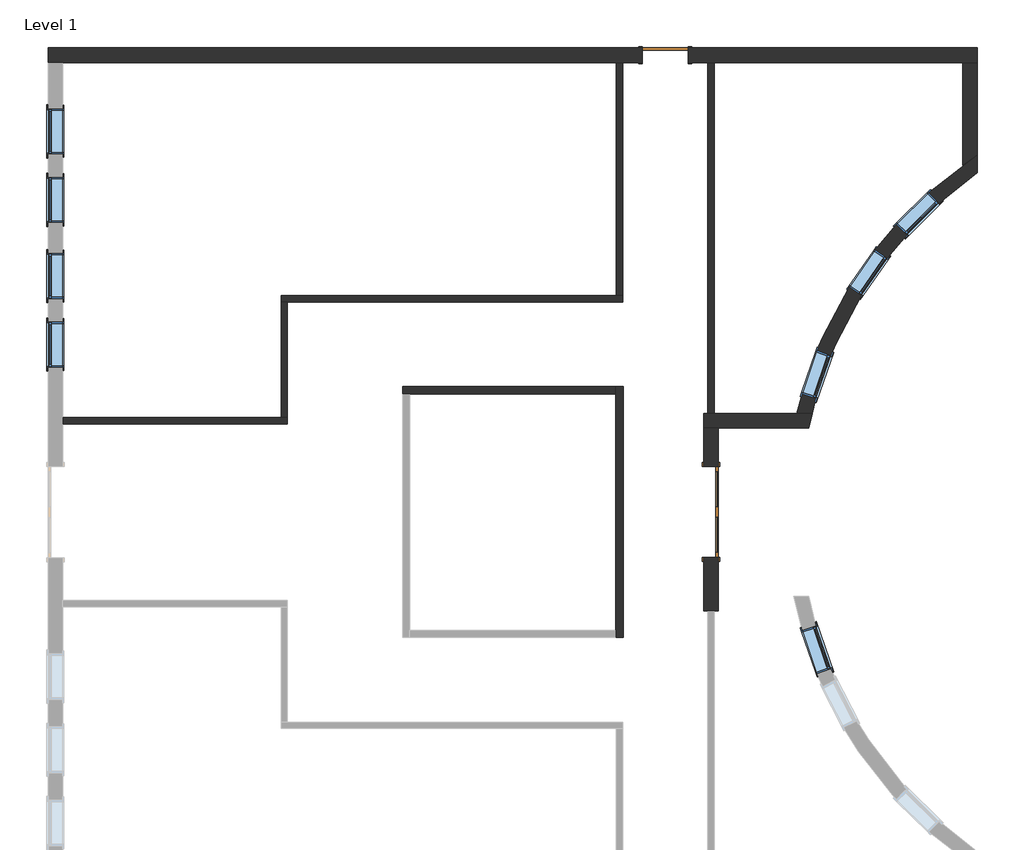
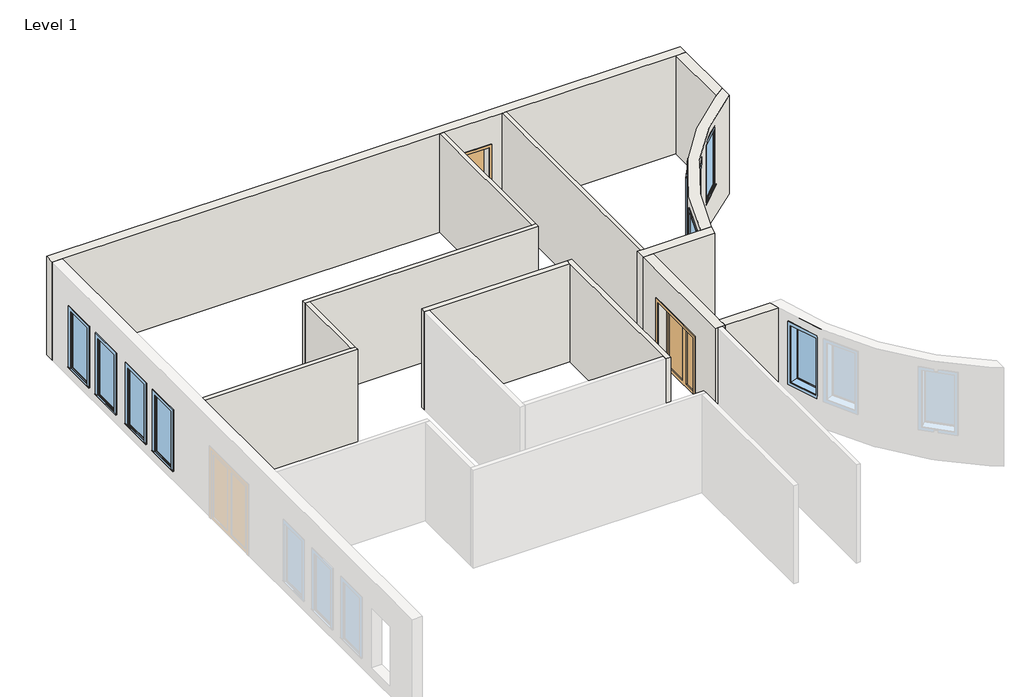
# One storey, part 2 of 2: 13 walls, 8 windows, 2 doors.
"""IFC4 building model written with IfcOpenShell, lengths in millimetres."""

from ifc_helpers import new_model, si_unit, point, frame, frame_2d, origin, origin_with_axes, place, context, project, spatial, polyline, circle_curve, trimmed, segment, composite_curve, outline, extrude, faceted_brep, transform, mapped, element, save
from ifc_brep_helpers import plane_surface, cylinder_surface, revolved_surface, advanced_brep
from components import door_e9d87526, door_617da642, fixed_6768491c, fixed_81e87f0c

model = new_model("IFC4")

# Units and contexts
model_context = context("Model", 3, world=origin())
ifc_project = project(units=[si_unit("LENGTHUNIT", "METRE", prefix="MILLI")], contexts=[model_context])

# Site, building, storey
site = spatial("IfcSite", under=ifc_project)
building = spatial("IfcBuilding", under=site)
storey = spatial("IfcBuildingStorey", under=building, Name="Level 1", Elevation=0.0)

# Doors
placement = place(None, origin())
door_shape = door_e9d87526(model_context)
element("IfcDoor", 1, ObjectType="Double-Glass 1 : 72\" x 84\"", at=placement, inside=storey, context=model_context, shape_type="MappedRepresentation", body=[
    mapped(door_shape, transform((2356.1311274, -430.8085073, 0.0), x_axis=(0.0, -1.0, 0.0), y_axis=(1.0, 0.0, 0.0), z_axis=(0.0, 0.0, 1.0))),
])
door_2_shape = door_617da642(model_context)
element("IfcDoor", 2, ObjectType="Sgl Flush : 36\" x 84\"", at=placement, inside=storey, context=model_context, shape_type="MappedRepresentation", body=[
    mapped(door_2_shape, transform((1444.1123774, 8708.4289927, 0.0), x_axis=(-1.0, 0.0, 0.0), y_axis=(0.0, -1.0, 0.0), z_axis=(0.0, 0.0, 1.0))),
])

# Walls
element("IfcWall", 3, ObjectType="Generic - 12\" Masonry", at=placement, inside=storey, context=model_context, shape_type="Brep", body=[
    faceted_brep([(-10895.5251226, 8560.7914927, 0.0), (-10600.2501226, 8560.7914927, 0.0), (467.7998774, 8560.7914927, 0.0), (591.6248774, 8560.7914927, 0.0), (986.9123774, 8560.7914927, 0.0), (986.9123774, 8560.7914927, 2133.6), (1901.3123774, 8560.7914927, 2133.6), (1901.3123774, 8560.7914927, 0.0), (2296.5998774, 8560.7914927, 0.0), (2420.4248774, 8560.7914927, 0.0), (7392.4748774, 8560.7914927, 0.0), (7687.7498774, 8560.7914927, 0.0), (7687.7498774, 8560.7914927, 3048.0), (7392.4748774, 8560.7914927, 3048.0), (2420.4248774, 8560.7914927, 3048.0), (2296.5998774, 8560.7914927, 3048.0), (591.6248774, 8560.7914927, 3048.0), (467.7998774, 8560.7914927, 3048.0), (-10600.2501226, 8560.7914927, 3048.0), (-10895.5251226, 8560.7914927, 3048.0), (986.9123774, 8856.0664927, 2133.6), (986.9123774, 8856.0664927, 0.0), (-10895.5251226, 8856.0664927, 0.0), (-10895.5251226, 8856.0664927, 3048.0), (7687.7498774, 8856.0664927, 3048.0), (7687.7498774, 8856.0664927, 0.0), (1901.3123774, 8856.0664927, 0.0), (1901.3123774, 8856.0664927, 2133.6)], [[[0, 1, 2, 3, 4, 5, 6, 7, 8, 9, 10, 11, 12, 13, 14, 15, 16, 17, 18, 19]], [[20, 21, 22, 23, 24, 25, 26, 27]], [[22, 21, 4, 3, 2, 1, 0]], [[26, 25, 11, 10, 9, 8, 7]], [[19, 18, 17, 16, 15, 14, 13, 12, 24, 23]], [[0, 19, 23, 22]], [[12, 11, 25, 24]], [[5, 4, 21, 20]], [[6, 5, 20, 27]], [[7, 6, 27, 26]]]),
])
element("IfcWall", 4, ObjectType="Generic - 12\" Masonry", at=placement, inside=storey, context=model_context, shape_type="AdvancedBrep", body=[
    advanced_brep(
    [(4380.4809086, 1540.8664927, 3048.0), (7687.7498774, 6354.9281942, 3048.0), (7687.7498774, 6711.7450927, 3048.0), (7392.479694, 6507.4464195, 3048.0), (4076.7189167, 1540.8664927, 3048.0), (4380.4809086, 1540.8664927, 0.0), (4076.7189167, 1540.8664927, 0.0), (7392.479694, 6507.4464195, 0.0), (7687.7498774, 6711.7450927, 0.0), (7687.7498774, 6354.9281942, 0.0), (6922.7409562, 5752.5897109, 2743.2), (6922.7409562, 5752.5897109, 914.4), (6273.4213207, 5108.7641359, 914.4), (6273.4213207, 5108.7641359, 2743.2), (5887.0014844, 4648.1395778, 2743.2), (5887.0014844, 4648.1395778, 914.4), (5365.8826583, 3896.7658165, 914.4), (5365.8826583, 3896.7658165, 2743.2), (4758.4259955, 2700.7397006, 2743.2), (4758.4259955, 2700.7397006, 914.4), (4459.0939332, 1836.7213695, 914.4), (4459.0939332, 1836.7213695, 2743.2), (6714.5317839, 5962.575628, 2743.2), (6065.2121485, 5318.750053, 2743.2), (6065.2121485, 5318.750053, 914.4), (6714.5317839, 5962.575628, 914.4), (5644.0119001, 4816.6661533, 2743.2), (5122.893074, 4065.2923921, 2743.2), (5122.893074, 4065.2923921, 914.4), (5644.0119001, 4816.6661533, 914.4), (4479.0078605, 2797.5418211, 2743.2), (4179.6757981, 1933.52349, 2743.2), (4179.6757981, 1933.52349, 914.4), (4479.0078605, 2797.5418211, 914.4)],
    [
        (0, 1, circle_curve(frame((12414.6932373, -435.5710073, 3048.0), z_axis=(0.0, 0.0, -1.0), x_axis=(1.0, 0.0, 0.0)), 8273.7460037)),
        (1, 2),
        (2, 3, circle_curve(frame((12414.6932373, -435.5710073, 3048.0), z_axis=(0.0, 0.0, 1.0), x_axis=(1.0, 0.0, 0.0)), 8569.0210037)),
        (3, 4, circle_curve(frame((12414.6932373, -435.5710073, 3048.0), z_axis=(0.0, 0.0, 1.0), x_axis=(1.0, 0.0, 0.0)), 8569.0209396)),
        (4, 0),
        (5, 6),
        (6, 7, circle_curve(frame((12414.6932373, -435.5710073, 0.0), z_axis=(0.0, 0.0, -1.0), x_axis=(1.0, 0.0, 0.0)), 8569.0210037)),
        (7, 8, circle_curve(frame((12414.6932373, -435.5710073, 0.0), z_axis=(0.0, 0.0, -1.0), x_axis=(1.0, 0.0, 0.0)), 8569.0209396)),
        (8, 9),
        (9, 5, circle_curve(frame((12414.6932373, -435.5710073, 0.0), z_axis=(0.0, 0.0, 1.0), x_axis=(1.0, 0.0, 0.0)), 8273.7460037)),
        (0, 5),
        (9, 1),
        (10, 11),
        (11, 12, circle_curve(frame((12414.6932373, -435.5710073, 914.4), z_axis=(0.0, 0.0, 1.0), x_axis=(1.0, 0.0, 0.0)), 8273.7460037)),
        (12, 13),
        (13, 10, circle_curve(frame((12414.6932373, -435.5710073, 2743.2), z_axis=(0.0, 0.0, -1.0), x_axis=(1.0, 0.0, 0.0)), 8273.7460037)),
        (14, 15),
        (15, 16, circle_curve(frame((12414.6932373, -435.5710073, 914.4), z_axis=(0.0, 0.0, 1.0), x_axis=(1.0, 0.0, 0.0)), 8273.7460037)),
        (16, 17),
        (17, 14, circle_curve(frame((12414.6932373, -435.5710073, 2743.2), z_axis=(0.0, 0.0, -1.0), x_axis=(1.0, 0.0, 0.0)), 8273.7460037)),
        (18, 19),
        (19, 20, circle_curve(frame((12414.6932373, -435.5710073, 914.4), z_axis=(0.0, 0.0, 1.0), x_axis=(1.0, 0.0, 0.0)), 8273.7460037)),
        (20, 21),
        (21, 18, circle_curve(frame((12414.6932373, -435.5710073, 2743.2), z_axis=(0.0, 0.0, -1.0), x_axis=(1.0, 0.0, 0.0)), 8273.7460037)),
        (2, 8),
        (6, 4),
        (22, 23, circle_curve(frame((12414.6932373, -435.5710073, 2743.2), z_axis=(0.0, 0.0, 1.0), x_axis=(1.0, 0.0, 0.0)), 8569.0210037)),
        (23, 24),
        (24, 25, circle_curve(frame((12414.6932373, -435.5710073, 914.4), z_axis=(0.0, 0.0, -1.0), x_axis=(1.0, 0.0, 0.0)), 8569.0210037)),
        (25, 22),
        (26, 27, circle_curve(frame((12414.6932373, -435.5710073, 2743.2), z_axis=(0.0, 0.0, 1.0), x_axis=(1.0, 0.0, 0.0)), 8569.0210037)),
        (27, 28),
        (28, 29, circle_curve(frame((12414.6932373, -435.5710073, 914.4), z_axis=(0.0, 0.0, -1.0), x_axis=(1.0, 0.0, 0.0)), 8569.0210037)),
        (29, 26),
        (30, 31, circle_curve(frame((12414.6932373, -435.5710073, 2743.2), z_axis=(0.0, 0.0, 1.0), x_axis=(1.0, 0.0, 0.0)), 8569.0210037)),
        (31, 32),
        (32, 33, circle_curve(frame((12414.6932373, -435.5710073, 914.4), z_axis=(0.0, 0.0, -1.0), x_axis=(1.0, 0.0, 0.0)), 8569.0210037)),
        (33, 30),
        (10, 22),
        (25, 11),
        (24, 12),
        (23, 13),
        (14, 26),
        (29, 15),
        (28, 16),
        (27, 17),
        (18, 30),
        (33, 19),
        (32, 20),
        (31, 21),
    ],
    [
        plane_surface(frame((20688.4392409, -435.5710073, 3048.0), z_axis=(0.0, 0.0, 1.0), x_axis=(0.0, -1.0, 0.0))),
        plane_surface(frame((20688.4392409, -435.5710073, 0.0), z_axis=(0.0, 0.0, -1.0), x_axis=(0.0, 1.0, 0.0))),
        revolved_surface(polyline([(20688.439241, -435.5710073, 0.0), (20688.439241, -435.5710073, 3048.0)]), (12414.6932373, -435.5710073, 0.0), (0.0, 0.0, -1.0)),
        cylinder_surface(frame((12414.6932373, -435.5710073, 0.0), z_axis=(0.0, 0.0, 1.0), x_axis=(1.0, 0.0, 0.0)), 8569.0210037),
        plane_surface(frame((7687.7498774, -9718.0016441, 0.0), z_axis=(1.0, 0.0, 0.0), x_axis=(0.0, 1.0, 0.0))),
        plane_surface(frame((4194.2801895, 1540.8664927, 0.0), z_axis=(0.0, -1.0, 0.0), x_axis=(-1.0, 0.0, 0.0))),
        plane_surface(frame((6922.7409562, 5752.5897109, 2743.2), z_axis=(-0.7101045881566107, -0.7040962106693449, 0.0), x_axis=(-0.7040962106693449, 0.7101045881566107, 0.0))),
        plane_surface(frame((6922.7409562, 5752.5897109, 914.4), z_axis=(0.0, 0.0, 1.0000000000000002), x_axis=(-0.7040962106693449, 0.7101045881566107, 0.0))),
        plane_surface(frame((6273.4213207, 5108.7641359, 914.4), z_axis=(0.710104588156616, 0.7040962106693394, 0.0), x_axis=(-0.7040962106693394, 0.710104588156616, 0.0))),
        plane_surface(frame((6273.4213207, 5108.7641359, 2743.2), z_axis=(0.0, 0.0, -1.0), x_axis=(-0.7040962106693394, 0.710104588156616, 0.0))),
        plane_surface(frame((5887.0014844, 4648.1395778, 2743.2), z_axis=(-0.5699024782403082, -0.8217123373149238, 0.0), x_axis=(-0.8217123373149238, 0.5699024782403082, 0.0))),
        plane_surface(frame((5887.0014844, 4648.1395778, 914.4), z_axis=(0.0, 0.0, 1.0), x_axis=(-0.8217123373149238, 0.5699024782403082, 0.0))),
        plane_surface(frame((5365.8826583, 3896.7658165, 914.4), z_axis=(0.5699024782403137, 0.82171233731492, 0.0), x_axis=(-0.82171233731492, 0.5699024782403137, 0.0))),
        plane_surface(frame((5365.8826583, 3896.7658165, 2743.2), z_axis=(0.0, 0.0, -1.0), x_axis=(-0.82171233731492, 0.5699024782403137, 0.0))),
        plane_surface(frame((4758.4259955, 2700.7397006, 2743.2), z_axis=(-0.3273535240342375, -0.9449019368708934, 0.0), x_axis=(-0.9449019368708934, 0.3273535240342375, 0.0))),
        plane_surface(frame((4758.4259955, 2700.7397006, 914.4), z_axis=(0.0, 0.0, 1.0), x_axis=(-0.9449019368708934, 0.3273535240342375, 0.0))),
        plane_surface(frame((4459.0939332, 1836.7213695, 914.4), z_axis=(0.3273535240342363, 0.944901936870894, 0.0), x_axis=(-0.944901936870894, 0.3273535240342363, 0.0))),
        plane_surface(frame((4459.0939332, 1836.7213695, 2743.2), z_axis=(0.0, 0.0, -1.0000000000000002), x_axis=(-0.944901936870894, 0.3273535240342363, 0.0))),
    ],
    [
        (0, [[1, 2, 3, 4, 5]]),
        (1, [[6, 7, 8, 9, 10]]),
        (2, [[-1, 11, -10, 12], [13, 14, 15, 16], [17, 18, 19, 20], [21, 22, 23, 24]]),
        (3, [[-4, -3, 25, -8, -7, 26], [27, 28, 29, 30], [31, 32, 33, 34], [35, 36, 37, 38]]),
        (4, [[-2, -12, -9, -25]]),
        (5, [[-5, -26, -6, -11]]),
        (6, [[-13, 39, -30, 40]]),
        (7, [[-14, -40, -29, 41]]),
        (8, [[-15, -41, -28, 42]]),
        (9, [[-16, -42, -27, -39]]),
        (10, [[-17, 43, -34, 44]]),
        (11, [[-18, -44, -33, 45]]),
        (12, [[-19, -45, -32, 46]]),
        (13, [[-20, -46, -31, -43]]),
        (14, [[-21, 47, -38, 48]]),
        (15, [[-22, -48, -37, 49]]),
        (16, [[-23, -49, -36, 50]]),
        (17, [[-24, -50, -35, -47]]),
    ],
),
])
element("IfcWall", 5, ObjectType="Generic - 12\" Masonry", at=placement, inside=storey, context=model_context, shape_type="SweptSolid", body=[
    extrude(outline(composite_curve([segment(polyline([(7687.7498774, 8560.7914927), (7687.7498774, 6711.7450927)]), True, "CONTINUOUS"), segment(trimmed(circle_curve(frame_2d((12414.6932373, -435.5710073)), 8569.0210037), [point((7687.7498774, 6711.7450927))], [point((7392.4748774, 6507.4430145))], True, "CARTESIAN"), True, "CONTINUOUS"), segment(polyline([(7392.4748774, 6507.4430145), (7392.4748774, 8560.7914927), (7687.7498774, 8560.7914927)]), True, "CONTINUOUS")], self_intersect=False)), origin_with_axes(), (0.0, 0.0, 1.0), 3048.0),
])
element("IfcWall", 6, ObjectType="Generic - 12\" Masonry", at=placement, inside=storey, context=model_context, shape_type="Brep", body=[
    faceted_brep([(2506.1498774, -2412.0085073, 3048.0), (2506.1498774, -2116.7335073, 3048.0), (2506.1498774, 1245.5914927, 3048.0), (2210.8748774, 1245.5914927, 3048.0), (2210.8748774, -2412.0085073, 3048.0), (2296.5998774, -2412.0085073, 3048.0), (2420.4248774, -2412.0085073, 3048.0), (2506.1498774, -2412.0085073, 0.0), (2506.1498774, -2116.7335073, 0.0), (2506.1498774, -1345.2085073, 0.0), (2506.1498774, -1345.2085073, 2133.6), (2506.1498774, 483.5914927, 2133.6), (2506.1498774, 483.5914927, 0.0), (2506.1498774, 1245.5914927, 0.0), (2210.8748774, -1345.2085073, 2133.6), (2210.8748774, -1345.2085073, 0.0), (2210.8748774, -2412.0085073, 0.0), (2210.8748774, 1245.5914927, 0.0), (2210.8748774, 483.5914927, 0.0), (2210.8748774, 483.5914927, 2133.6), (2420.4248774, -2412.0085073, 0.0), (2296.5998774, -2412.0085073, 0.0)], [[[0, 1, 2, 3, 4, 5, 6]], [[7, 8, 9, 10, 11, 12, 13, 2, 1, 0]], [[14, 15, 16, 4, 3, 17, 18, 19]], [[16, 15, 9, 8, 7, 20, 21]], [[18, 17, 13, 12]], [[2, 13, 17, 3]], [[7, 0, 6, 5, 4, 16, 21, 20]], [[10, 9, 15, 14]], [[11, 10, 14, 19]], [[12, 11, 19, 18]]]),
])
element("IfcWall", 7, ObjectType="Generic - 12\" Masonry", at=placement, inside=storey, context=model_context, shape_type="AdvancedBrep", body=[
    advanced_brep(
    [(4380.4809086, 1540.8664927, 0.0), (4076.7189167, 1540.8664927, 0.0), (2420.4248774, 1540.8664927, 0.0), (2296.5998774, 1540.8664927, 0.0), (2210.8748774, 1540.8664927, 0.0), (2210.8748774, 1540.8664927, 3048.0), (2296.5998774, 1540.8664927, 3048.0), (2420.4248774, 1540.8664927, 3048.0), (4076.7189167, 1540.8664927, 3048.0), (4380.4809086, 1540.8664927, 3048.0), (4313.5472948, 1245.5914927, 0.0), (4313.5472948, 1245.5914927, 3048.0), (2506.1498774, 1245.5914927, 3048.0), (2210.8748774, 1245.5914927, 3048.0), (2210.8748774, 1245.5914927, 0.0), (2506.1498774, 1245.5914927, 0.0)],
    [
        (0, 1),
        (1, 2),
        (2, 3),
        (3, 4),
        (4, 5),
        (5, 6),
        (6, 7),
        (7, 8),
        (8, 9),
        (9, 0),
        (10, 11),
        (11, 12),
        (12, 13),
        (13, 14),
        (14, 15),
        (15, 10),
        (0, 10, circle_curve(frame((12414.6932373, -435.5710073, 0.0), z_axis=(0.0, 0.0, 1.0), x_axis=(1.0, 0.0, 0.0)), 8273.7460037)),
        (14, 4),
        (5, 13),
        (11, 9, circle_curve(frame((12414.6932373, -435.5710073, 3048.0), z_axis=(0.0, 0.0, -1.0), x_axis=(1.0, 0.0, 0.0)), 8273.7460037)),
    ],
    [
        plane_surface(frame((4194.2801895, 1540.8664927, 0.0), z_axis=(0.0, 1.0, 0.0), x_axis=(-1.0, 0.0, 0.0))),
        plane_surface(frame((4194.2801895, 1245.5914927, 0.0), z_axis=(0.0, -1.0, 0.0), x_axis=(1.0, 0.0, 0.0))),
        plane_surface(frame((4194.2801895, 1540.8664927, 0.0), z_axis=(0.0, 0.0, -1.0), x_axis=(0.0, -1.0, 0.0))),
        plane_surface(frame((2358.5123774, 1540.8664927, 3048.0), z_axis=(0.0, 0.0, 1.0), x_axis=(0.0, -1.0, 0.0))),
        revolved_surface(polyline([(20688.439241, -435.5710073, 0.0), (20688.439241, -435.5710073, 3048.0)]), (12414.6932373, -435.5710073, 0.0), (0.0, 0.0, -1.0)),
        plane_surface(frame((2210.8748774, -2873.9710073, 0.0), z_axis=(-1.0, 0.0, 0.0), x_axis=(0.0, -1.0, 0.0))),
    ],
    [
        (0, [[1, 2, 3, 4, 5, 6, 7, 8, 9, 10]]),
        (1, [[11, 12, 13, 14, 15, 16]]),
        (2, [[-4, -3, -2, -1, 17, -16, -15, 18]]),
        (3, [[-9, -8, -7, -6, 19, -13, -12, 20]]),
        (4, [[-10, -20, -11, -17]]),
        (5, [[-5, -18, -14, -19]]),
    ],
),
])
element("IfcWall", 8, ObjectType="Generic - 12\" Masonry", at=placement, inside=storey, context=model_context, shape_type="SweptSolid", body=[
    extrude(outline(composite_curve([segment(polyline([(4076.7189167, -2412.0085073), (2506.1498774, -2412.0085073), (2506.1498774, -2116.7335073), (4012.2047005, -2116.7335073)]), True, "CONTINUOUS"), segment(trimmed(circle_curve(frame_2d((12414.6932373, -435.5710073)), 8569.0210037), [point((4012.2047005, -2116.7335073))], [point((4076.7189167, -2412.0085073))], True, "CARTESIAN"), True, "CONTINUOUS")], self_intersect=False)), origin_with_axes(), (0.0, 0.0, 1.0), 3048.0),
])
element("IfcWall", 9, ObjectType="Generic - 6\" Masonry", at=placement, inside=storey, context=model_context, shape_type="Brep", body=[
    faceted_brep([(-3808.9251226, 1931.3914927, 0.0), (-3666.0501226, 1931.3914927, 0.0), (458.2748774, 1931.3914927, 0.0), (458.2748774, 1931.3914927, 3048.0), (-3666.0501226, 1931.3914927, 3048.0), (-3808.9251226, 1931.3914927, 3048.0), (-3808.9251226, 2074.2664927, 0.0), (-3808.9251226, 2074.2664927, 3048.0), (458.2748774, 2074.2664927, 3048.0), (458.2748774, 2074.2664927, 0.0)], [[[0, 1, 2, 3, 4, 5]], [[6, 7, 8, 9]], [[2, 1, 0, 6, 9]], [[5, 4, 3, 8, 7]], [[0, 5, 7, 6]], [[3, 2, 9, 8]]]),
])
element("IfcWall", 10, ObjectType="Generic - 6\" Masonry", at=placement, inside=storey, context=model_context, shape_type="Brep", body=[
    faceted_brep([(458.2748774, 2074.2664927, 0.0), (458.2748774, 1931.3914927, 0.0), (458.2748774, -2802.5335073, 0.0), (458.2748774, -2945.4085073, 0.0), (458.2748774, -2945.4085073, 3048.0), (458.2748774, -2802.5335073, 3048.0), (458.2748774, 1931.3914927, 3048.0), (458.2748774, 2074.2664927, 3048.0), (601.1498774, 2074.2664927, 0.0), (601.1498774, 2074.2664927, 3048.0), (601.1498774, -2945.4085073, 3048.0), (601.1498774, -2945.4085073, 0.0)], [[[0, 1, 2, 3, 4, 5, 6, 7]], [[8, 9, 10, 11]], [[3, 2, 1, 0, 8, 11]], [[7, 6, 5, 4, 10, 9]], [[0, 7, 9, 8]], [[4, 3, 11, 10]]]),
])
element("IfcWall", 11, ObjectType="Interior - 4 7/8\" Partition (1-hr)", at=placement, inside=storey, context=model_context, shape_type="Brep", body=[
    faceted_brep([(-10600.2501226, 1331.3164927, 0.0), (-6113.9751226, 1331.3164927, 0.0), (-6113.9751226, 1331.3164927, 3048.0), (-10600.2501226, 1331.3164927, 3048.0), (-10600.2501226, 1455.1414927, 0.0), (-10600.2501226, 1455.1414927, 3048.0), (-6237.8001226, 1455.1414927, 3048.0), (-6113.9751226, 1455.1414927, 3048.0), (-6113.9751226, 1455.1414927, 0.0), (-6237.8001226, 1455.1414927, 0.0)], [[[0, 1, 2, 3]], [[4, 5, 6, 7, 8, 9]], [[1, 0, 4, 9, 8]], [[3, 2, 7, 6, 5]], [[2, 1, 8, 7]], [[0, 3, 5, 4]]]),
])
element("IfcWall", 12, ObjectType="Interior - 4 7/8\" Partition (1-hr)", at=placement, inside=storey, context=model_context, shape_type="Brep", body=[
    faceted_brep([(-6237.8001226, 3769.7164927, 0.0), (-6113.9751226, 3769.7164927, 0.0), (591.6248774, 3769.7164927, 0.0), (591.6248774, 3769.7164927, 3048.0), (-6113.9751226, 3769.7164927, 3048.0), (-6237.8001226, 3769.7164927, 3048.0), (-6237.8001226, 3893.5414927, 0.0), (-6237.8001226, 3893.5414927, 3048.0), (467.7998774, 3893.5414927, 3048.0), (591.6248774, 3893.5414927, 3048.0), (591.6248774, 3893.5414927, 0.0), (467.7998774, 3893.5414927, 0.0)], [[[0, 1, 2, 3, 4, 5]], [[6, 7, 8, 9, 10, 11]], [[2, 1, 0, 6, 11, 10]], [[5, 4, 3, 9, 8, 7]], [[3, 2, 10, 9]], [[0, 5, 7, 6]]]),
])
element("IfcWall", 13, ObjectType="Interior - 4 7/8\" Partition (1-hr)", at=placement, inside=storey, context=model_context, shape_type="SweptSolid", body=[
    extrude(outline(polyline([(591.6248774, 8560.7914927), (591.6248774, 3893.5414927), (467.7998774, 3893.5414927), (467.7998774, 8560.7914927), (591.6248774, 8560.7914927)])), origin_with_axes(), (0.0, 0.0, 1.0), 3048.0),
])
element("IfcWall", 14, ObjectType="Interior - 4 7/8\" Partition (1-hr)", at=placement, inside=storey, context=model_context, shape_type="SweptSolid", body=[
    extrude(outline(polyline([(-6237.8001226, 1455.1414927), (-6237.8001226, 3769.7164927), (-6113.9751226, 3769.7164927), (-6113.9751226, 1455.1414927), (-6237.8001226, 1455.1414927)])), origin_with_axes(), (0.0, 0.0, 1.0), 3048.0),
])
element("IfcWall", 15, ObjectType="Interior - 4 7/8\" Partition (1-hr)", at=placement, inside=storey, context=model_context, shape_type="SweptSolid", body=[
    extrude(outline(polyline([(2420.4248774, 8560.7914927), (2420.4248774, 1540.8664927), (2296.5998774, 1540.8664927), (2296.5998774, 8560.7914927), (2420.4248774, 8560.7914927)])), origin_with_axes(), (0.0, 0.0, 1.0), 3048.0),
])

# Windows
fixed_shape = fixed_6768491c(model_context)
element("IfcWindow", 16, ObjectType="Fixed : 36\"w x 72\"h", at=placement, inside=storey, context=model_context, shape_type="MappedRepresentation", body=[
    mapped(fixed_shape, transform((4481.7291739, -3224.2029694, 609.6), x_axis=(0.32735352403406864, -0.9449019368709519, 0.0), y_axis=(0.9449019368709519, 0.32735352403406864, 0.0), z_axis=(0.0, 0.0, 1.0))),
])
fixed_2_shape = fixed_81e87f0c(model_context)
element("IfcWindow", 17, ObjectType="Fixed : 36\"w x 72\"h", at=placement, inside=storey, context=model_context, shape_type="MappedRepresentation", body=[
    mapped(fixed_2_shape, transform((-10747.8876226, 2879.1289927, 0.0), x_axis=(0.0, -1.0, 0.0), y_axis=(1.0, 0.0, 0.0), z_axis=(0.0, 0.0, 1.0))),
])
element("IfcWindow", 18, ObjectType="Fixed : 36\"w x 72\"h", at=placement, inside=storey, context=model_context, shape_type="MappedRepresentation", body=[
    mapped(fixed_2_shape, transform((-10747.8876226, 5774.7289927, 0.0), x_axis=(0.0, -1.0, 0.0), y_axis=(1.0, 0.0, 0.0), z_axis=(0.0, 0.0, 1.0))),
])
element("IfcWindow", 19, ObjectType="Fixed : 36\"w x 72\"h", at=placement, inside=storey, context=model_context, shape_type="MappedRepresentation", body=[
    mapped(fixed_2_shape, transform((-10747.8876226, 4250.7289927, 0.0), x_axis=(0.0, -1.0, 0.0), y_axis=(1.0, 0.0, 0.0), z_axis=(0.0, 0.0, 1.0))),
])
element("IfcWindow", 20, ObjectType="Fixed : 36\"w x 72\"h", at=placement, inside=storey, context=model_context, shape_type="MappedRepresentation", body=[
    mapped(fixed_2_shape, transform((-10747.8876226, 7146.3289927, 0.0), x_axis=(0.0, -1.0, 0.0), y_axis=(1.0, 0.0, 0.0), z_axis=(0.0, 0.0, 1.0))),
])
element("IfcWindow", 21, ObjectType="Fixed : 36\"w x 72\"h", at=placement, inside=storey, context=model_context, shape_type="MappedRepresentation", body=[
    mapped(fixed_2_shape, transform((4481.7291739, 2353.0609547, 609.6), x_axis=(0.32735352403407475, 0.9449019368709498, 0.0), y_axis=(-0.9449019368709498, 0.32735352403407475, 0.0), z_axis=(0.0, 0.0, 1.0))),
])
element("IfcWindow", 22, ObjectType="Fixed : 36\"w x 72\"h", at=placement, inside=storey, context=model_context, shape_type="MappedRepresentation", body=[
    mapped(fixed_2_shape, transform((5526.8398006, 4387.8989143, 609.6), x_axis=(0.569902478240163, 0.8217123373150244, 0.0), y_axis=(-0.8217123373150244, 0.569902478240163, 0.0), z_axis=(0.0, 0.0, 1.0))),
])
element("IfcWindow", 23, ObjectType="Fixed : 36\"w x 72\"h", at=placement, inside=storey, context=model_context, shape_type="MappedRepresentation", body=[
    mapped(fixed_2_shape, transform((6521.185119, 5562.3410552, 609.6), x_axis=(0.7101045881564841, 0.7040962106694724, 0.0), y_axis=(-0.7040962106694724, 0.7101045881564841, 0.0), z_axis=(0.0, 0.0, 1.0))),
])

save(model, "model.ifc")
